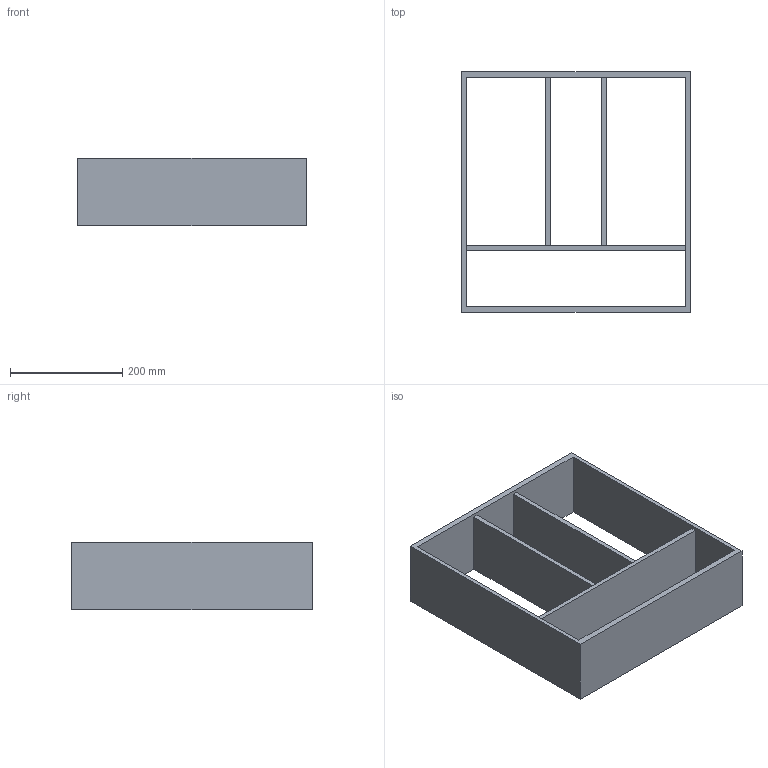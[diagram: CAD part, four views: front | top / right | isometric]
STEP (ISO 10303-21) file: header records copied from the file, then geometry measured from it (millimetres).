
FILE_DESCRIPTION (( 'STEP AP214' ), '1' );
FILE_NAME ('Vario Multi H120 NL450_B500_16 mm_Alu-Buche.step', '2010-10-08T09:47:26', ( 'grass' ), ( '' ), 'SwSTEP 2.0', 'SolidWorks 2010', '' );
FILE_SCHEMA (( 'AUTOMOTIVE_DESIGN' ));
Length unit declared in the file: millimetre
Products named in the file (1): Vario Multi H120 NL450_B500_16 mm_Alu-Buche
Bounding box: 408 x 429 x 120 mm (x, y, z)
Volume: 2762676 mm3; surface area: 660040 mm2
Topology: 1 solids, 1 shells, 22 faces, 60 edges, 40 vertices
Faces by surface type: plane 22
Entity records: 734 total; most frequent: CARTESIAN_POINT 123, ORIENTED_EDGE 120, DIRECTION 106, VECTOR 60, LINE 60, EDGE_CURVE 60, VERTEX_POINT 40, EDGE_LOOP 30
